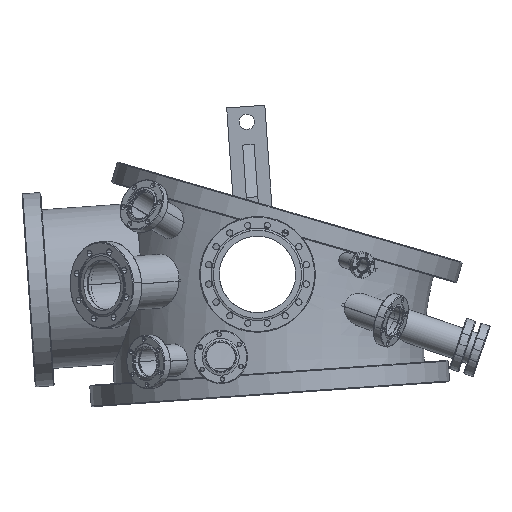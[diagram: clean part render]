
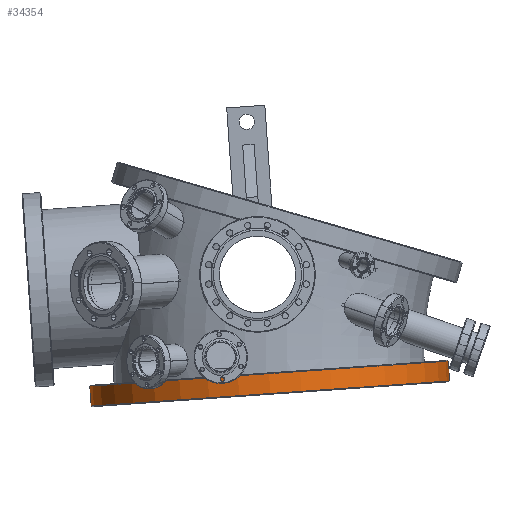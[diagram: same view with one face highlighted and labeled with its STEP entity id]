
A CAD part, left-side view. The second image highlights one B-rep face of the part: STEP entity #34354.
In plain terms, the highlighted cylindrical face has radius 234.95 mm (diameter 469.9 mm), a partial arc.
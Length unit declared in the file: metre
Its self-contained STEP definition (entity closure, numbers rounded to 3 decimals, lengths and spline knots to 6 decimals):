
#196 = AXIS2_PLACEMENT_3D ( 'NONE', #4275, #19402, #5217 ) ;
#472 = CARTESIAN_POINT ( 'NONE',  ( 0.23495, -0.001, 0. ) ) ;
#4156 = VERTEX_POINT ( 'NONE', #472 ) ;
#4165 = CARTESIAN_POINT ( 'NONE',  ( -0.23495, -0.027, 0. ) ) ;
#4275 = CARTESIAN_POINT ( 'NONE',  ( 0., 0.0014, 0. ) ) ;
#5217 = DIRECTION ( 'NONE',  ( -1., 0., 0. ) ) ;
#5353 = CARTESIAN_POINT ( 'NONE',  ( 0., -0.001, 0. ) ) ;
#6109 = EDGE_LOOP ( 'NONE', ( #42662, #24548, #31378, #26523 ) ) ;
#6654 = VERTEX_POINT ( 'NONE', #37234 ) ;
#7850 = CIRCLE ( 'NONE', #34694, 0.23495 ) ;
#8629 = LINE ( 'NONE', #16311, #44887 ) ;
#10488 = DIRECTION ( 'NONE',  ( 0., 1., 0. ) ) ;
#13846 = DIRECTION ( 'NONE',  ( 0., 1., 0. ) ) ;
#14126 = CARTESIAN_POINT ( 'NONE',  ( 0.23495, -0.027, 0. ) ) ;
#16311 = CARTESIAN_POINT ( 'NONE',  ( 0.23495, -0.027, 0. ) ) ;
#17503 = EDGE_CURVE ( 'NONE', #4156, #6654, #7850, .T. ) ;
#18233 = AXIS2_PLACEMENT_3D ( 'NONE', #24182, #10488, #31856 ) ;
#19402 = DIRECTION ( 'NONE',  ( 0., -1., 0. ) ) ;
#20013 = DIRECTION ( 'NONE',  ( 0., 1., 0. ) ) ;
#22063 = VERTEX_POINT ( 'NONE', #4165 ) ;
#24182 = CARTESIAN_POINT ( 'NONE',  ( 0., -0.027, 0. ) ) ;
#24548 = ORIENTED_EDGE ( 'NONE', *, *, #44012, .T. ) ;
#26523 = ORIENTED_EDGE ( 'NONE', *, *, #40977, .F. ) ;
#26594 = FACE_OUTER_BOUND ( 'NONE', #6109, .T. ) ;
#26971 = DIRECTION ( 'NONE',  ( 1., 0., 0. ) ) ;
#27068 = CYLINDRICAL_SURFACE ( 'NONE', #196, 0.23495 ) ;
#27400 = CIRCLE ( 'NONE', #18233, 0.23495 ) ;
#29696 = VECTOR ( 'NONE', #13846, 1. ) ;
#31378 = ORIENTED_EDGE ( 'NONE', *, *, #17503, .F. ) ;
#31856 = DIRECTION ( 'NONE',  ( 1., 0., 0. ) ) ;
#32325 = LINE ( 'NONE', #42898, #29696 ) ;
#34354 = ADVANCED_FACE ( 'NONE', ( #26594 ), #27068, .T. ) ;
#34694 = AXIS2_PLACEMENT_3D ( 'NONE', #5353, #20013, #26971 ) ;
#37234 = CARTESIAN_POINT ( 'NONE',  ( -0.23495, -0.001, 0. ) ) ;
#38985 = VERTEX_POINT ( 'NONE', #14126 ) ;
#40977 = EDGE_CURVE ( 'NONE', #38985, #4156, #8629, .T. ) ;
#42662 = ORIENTED_EDGE ( 'NONE', *, *, #44120, .T. ) ;
#42898 = CARTESIAN_POINT ( 'NONE',  ( -0.23495, -0.027, 0. ) ) ;
#44012 = EDGE_CURVE ( 'NONE', #22063, #6654, #32325, .T. ) ;
#44120 = EDGE_CURVE ( 'NONE', #38985, #22063, #27400, .T. ) ;
#44887 = VECTOR ( 'NONE', #45607, 1. ) ;
#45607 = DIRECTION ( 'NONE',  ( 0., 1., 0. ) ) ;
